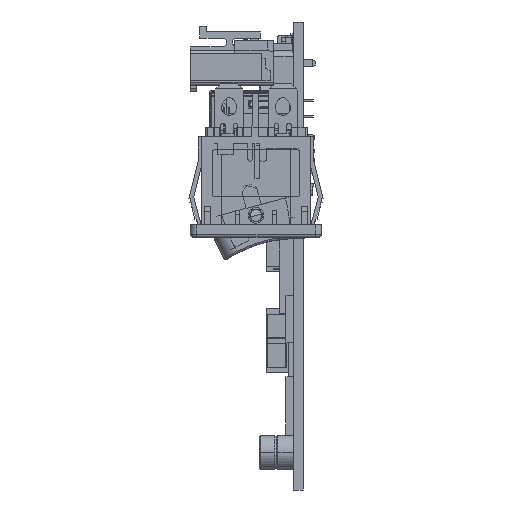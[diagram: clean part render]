
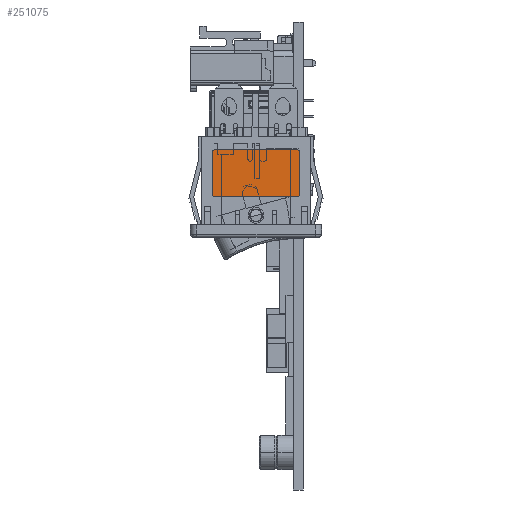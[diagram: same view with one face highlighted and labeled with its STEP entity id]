
A CAD part, left-side view. The second image highlights one B-rep face of the part: STEP entity #251075.
In plain terms, the highlighted planar face has unit normal (-1, 0, 0) as drawn and (0, -1, 0) by its records, which use the part's own axes.
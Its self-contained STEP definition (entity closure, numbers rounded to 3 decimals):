
#246261=DIRECTION('',(0.,0.,1.));
#246262=VECTOR('',#246261,6.9);
#246263=CARTESIAN_POINT('',(7.,-3.275,6.8));
#246264=LINE('',#246263,#246262);
#246273=DIRECTION('',(1.,0.,0.));
#246274=VECTOR('',#246273,13.4);
#246275=CARTESIAN_POINT('',(-6.7,-3.275,6.5));
#246276=LINE('',#246275,#246274);
#246285=DIRECTION('',(0.,0.,-1.));
#246286=VECTOR('',#246285,6.9);
#246287=CARTESIAN_POINT('',(-7.,-3.275,13.7));
#246288=LINE('',#246287,#246286);
#246297=DIRECTION('',(-1.,0.,0.));
#246298=VECTOR('',#246297,13.4);
#246299=CARTESIAN_POINT('',(6.7,-3.275,14.));
#246300=LINE('',#246299,#246298);
#246309=CARTESIAN_POINT('',(6.7,-3.275,6.8));
#246310=DIRECTION('',(0.,1.,0.));
#246311=DIRECTION('',(1.,0.,0.));
#246312=AXIS2_PLACEMENT_3D('',#246309,#246310,#246311);
#246314=CARTESIAN_POINT('',(-6.7,-3.275,6.8));
#246315=DIRECTION('',(0.,1.,0.));
#246316=DIRECTION('',(0.,0.,-1.));
#246317=AXIS2_PLACEMENT_3D('',#246314,#246315,#246316);
#246319=CARTESIAN_POINT('',(-6.7,-3.275,13.7));
#246320=DIRECTION('',(0.,1.,0.));
#246321=DIRECTION('',(-1.,0.,0.));
#246322=AXIS2_PLACEMENT_3D('',#246319,#246320,#246321);
#246324=CARTESIAN_POINT('',(6.7,-3.275,13.7));
#246325=DIRECTION('',(0.,1.,0.));
#246326=DIRECTION('',(0.,0.,1.));
#246327=AXIS2_PLACEMENT_3D('',#246324,#246325,#246326);
#247183=CARTESIAN_POINT('',(7.,-3.275,6.8));
#247184=VERTEX_POINT('',#247183);
#247185=CARTESIAN_POINT('',(7.,-3.275,13.7));
#247186=VERTEX_POINT('',#247185);
#247187=CARTESIAN_POINT('',(6.7,-3.275,6.5));
#247188=VERTEX_POINT('',#247187);
#247189=CARTESIAN_POINT('',(-6.7,-3.275,6.5));
#247190=VERTEX_POINT('',#247189);
#247191=CARTESIAN_POINT('',(-7.,-3.275,6.8));
#247192=VERTEX_POINT('',#247191);
#247193=CARTESIAN_POINT('',(-7.,-3.275,13.7));
#247194=VERTEX_POINT('',#247193);
#247195=CARTESIAN_POINT('',(-6.7,-3.275,14.));
#247196=VERTEX_POINT('',#247195);
#247197=CARTESIAN_POINT('',(6.7,-3.275,14.));
#247198=VERTEX_POINT('',#247197);
#251060=CARTESIAN_POINT('',(0.,-3.275,0.));
#251061=DIRECTION('',(0.,1.,0.));
#251062=DIRECTION('',(1.,0.,0.));
#251063=AXIS2_PLACEMENT_3D('',#251060,#251061,#251062);
#251064=PLANE('',#251063);
#251065=ORIENTED_EDGE('',*,*,#250970,.T.);
#251066=ORIENTED_EDGE('',*,*,#250986,.F.);
#251067=ORIENTED_EDGE('',*,*,#250998,.T.);
#251068=ORIENTED_EDGE('',*,*,#251012,.F.);
#251069=ORIENTED_EDGE('',*,*,#251026,.T.);
#251070=ORIENTED_EDGE('',*,*,#251040,.F.);
#251071=ORIENTED_EDGE('',*,*,#251053,.T.);
#251072=ORIENTED_EDGE('',*,*,#250955,.F.);
#251073=EDGE_LOOP('',(#251065,#251066,#251067,#251068,#251069,#251070,#251071,
#251072));
#251074=FACE_OUTER_BOUND('',#251073,.F.);
#251075=ADVANCED_FACE('',(#251074),#251064,.F.);
#246313=CIRCLE('',#246312,0.3);
#246318=CIRCLE('',#246317,0.3);
#246323=CIRCLE('',#246322,0.3);
#246328=CIRCLE('',#246327,0.3);
#250955=EDGE_CURVE('',#247184,#247186,#246264,.T.);
#250970=EDGE_CURVE('',#247184,#247188,#246313,.T.);
#250986=EDGE_CURVE('',#247190,#247188,#246276,.T.);
#250998=EDGE_CURVE('',#247190,#247192,#246318,.T.);
#251012=EDGE_CURVE('',#247194,#247192,#246288,.T.);
#251026=EDGE_CURVE('',#247194,#247196,#246323,.T.);
#251040=EDGE_CURVE('',#247198,#247196,#246300,.T.);
#251053=EDGE_CURVE('',#247198,#247186,#246328,.T.);
